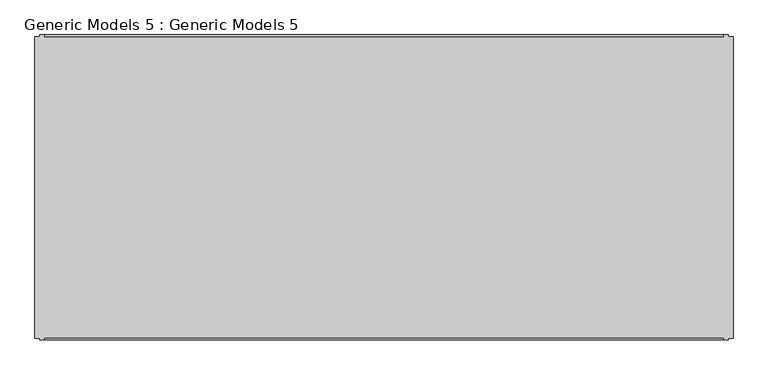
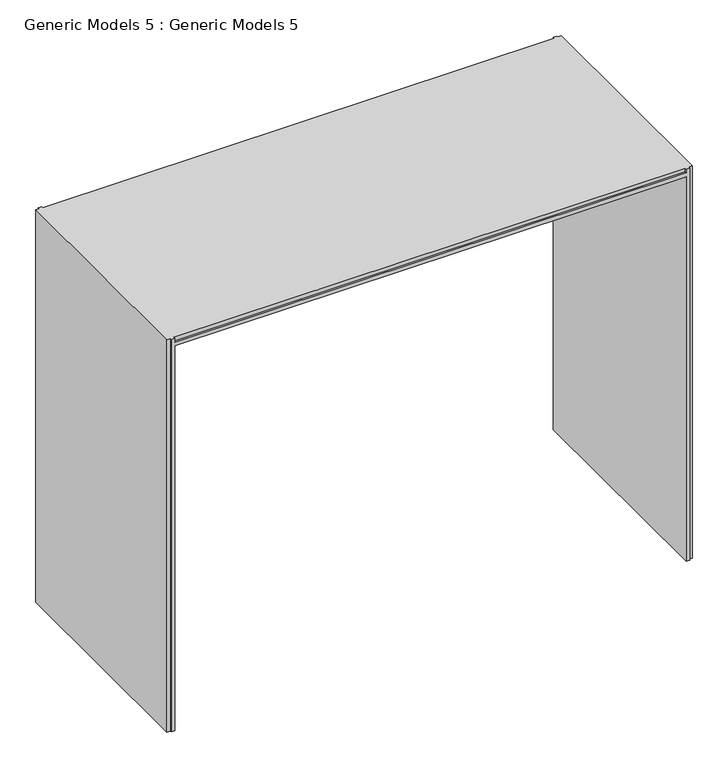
"""IFC4 building model written with IfcOpenShell, lengths in millimetres: proxy geometry, Generic Models 5 : Generic Models 5."""

from ifc_helpers import new_model, si_unit, origin, place, context, project, spatial, faceted_brep, source, transform, mapped, element, save


def generic_models_5_generic_models_5_d8dfdb0c(model_context):
    return source(origin(), model_context, "Body", "Brep", [
        faceted_brep([(24443.1337784, 5466.9206658, 1000.0), (24493.1337784, 5466.9206658, 1000.0), (24493.1337784, 5446.9206658, 1000.0), (24543.1337784, 5446.9206658, 1000.0), (24543.1337784, 2161.3321125, 1000.0), (24493.1337784, 2161.3321125, 1000.0), (24493.1337784, 2141.3321125, 1000.0), (24443.1337784, 2141.3321125, 1000.0), (24443.1337784, 2141.3321125, 6885.8327559), (24443.1337784, 5466.9206658, 6885.8327559), (24443.1337784, 2141.3321125, 7000.0), (24443.1337784, 2166.3321125, 7000.0), (24443.1337784, 2166.3321125, 6942.9163779), (24443.1337784, 2141.3321125, 6942.9163779), (24443.1337784, 5466.9206658, 7000.0), (24443.1337784, 5466.9206658, 6942.9163779), (24443.1337784, 5441.9206658, 6942.9163779), (24443.1337784, 5441.9206658, 7000.0), (24493.1337784, 2161.3321125, 7000.0), (24493.1337784, 2141.3321125, 7000.0), (24543.1337784, 2161.3321125, 7000.0), (24543.1337784, 5446.9206658, 7000.0), (24493.1337784, 5446.9206658, 7000.0), (24493.1337784, 5466.9206658, 7000.0), (17043.1337784, 2141.3321125, 6885.8327559), (17043.1337784, 2141.3321125, 6942.9163779), (17043.1337784, 2141.3321125, 7000.0), (16993.1337784, 2141.3321125, 7000.0), (16993.1337784, 2141.3321125, 1000.0), (17043.1337784, 2141.3321125, 1000.0), (17043.1337784, 2166.3321125, 6942.9163779), (17043.1337784, 2166.3321125, 7000.0), (17043.1337784, 5441.9206658, 7000.0), (17043.1337784, 5466.9206658, 7000.0), (16993.1337784, 5466.9206658, 7000.0), (16993.1337784, 5446.9206658, 7000.0), (16943.1337784, 5446.9206658, 7000.0), (16943.1337784, 2161.3321125, 7000.0), (16993.1337784, 2161.3321125, 7000.0), (17043.1337784, 5441.9206658, 6942.9163779), (17043.1337784, 5466.9206658, 6942.9163779), (17043.1337784, 5466.9206658, 6885.8327559), (17043.1337784, 5466.9206658, 1000.0), (16993.1337784, 5466.9206658, 1000.0), (16993.1337784, 2161.3321125, 1000.0), (16943.1337784, 2161.3321125, 1000.0), (16943.1337784, 5446.9206658, 1000.0), (16993.1337784, 5446.9206658, 1000.0)], [[[0, 1, 2, 3, 4, 5, 6, 7]], [[0, 7, 8, 9]], [[10, 11, 12, 13]], [[14, 15, 16, 17]], [[18, 19, 6, 5]], [[20, 18, 5, 4]], [[21, 20, 4, 3]], [[22, 21, 3, 2]], [[23, 22, 2, 1]], [[24, 8, 7, 6, 19, 10, 13, 25, 26, 27, 28, 29]], [[25, 13, 12, 30]], [[30, 12, 11, 31]], [[31, 11, 10, 19, 18, 20, 21, 22, 23, 14, 17, 32, 33, 34, 35, 36, 37, 38, 27, 26]], [[32, 17, 16, 39]], [[39, 16, 15, 40]], [[40, 15, 14, 23, 1, 0, 9, 41, 42, 43, 34, 33]], [[8, 24, 41, 9]], [[42, 29, 28, 44, 45, 46, 47, 43]], [[26, 25, 30, 31]], [[33, 32, 39, 40]], [[29, 42, 41, 24]], [[27, 38, 44, 28]], [[38, 37, 45, 44]], [[37, 36, 46, 45]], [[36, 35, 47, 46]], [[35, 34, 43, 47]]]),
    ])


if __name__ == "__main__":
    model = new_model("IFC4")
    model_context = context("Model", 3, world=origin())
    ifc_project = project(units=[si_unit("LENGTHUNIT", "METRE", prefix="MILLI")], contexts=[model_context])
    site = spatial("IfcSite", under=ifc_project)
    building = spatial("IfcBuilding", under=site)
    placement = place(None, origin())
    generic_models_5_generic_models_5_shape = generic_models_5_generic_models_5_d8dfdb0c(model_context)
    element("IfcBuildingElementProxy", 1, Name="Generic Models 5 : Generic Models 5", ObjectType="Generic Models 5 : Generic Models 5", at=placement, inside=building, context=model_context, shape_type="MappedRepresentation", body=[
        mapped(generic_models_5_generic_models_5_shape, transform((0.0, 0.0, 0.0), x_axis=(1.0, 0.0, 0.0), y_axis=(0.0, 1.0, 0.0), z_axis=(0.0, 0.0, 1.0))),
    ])
    save(model, "model.ifc")
